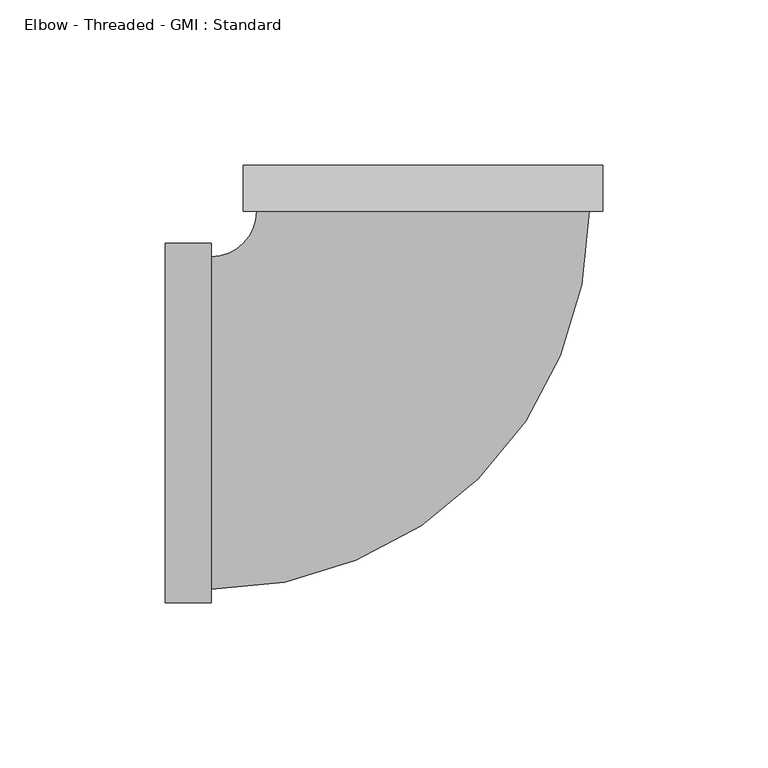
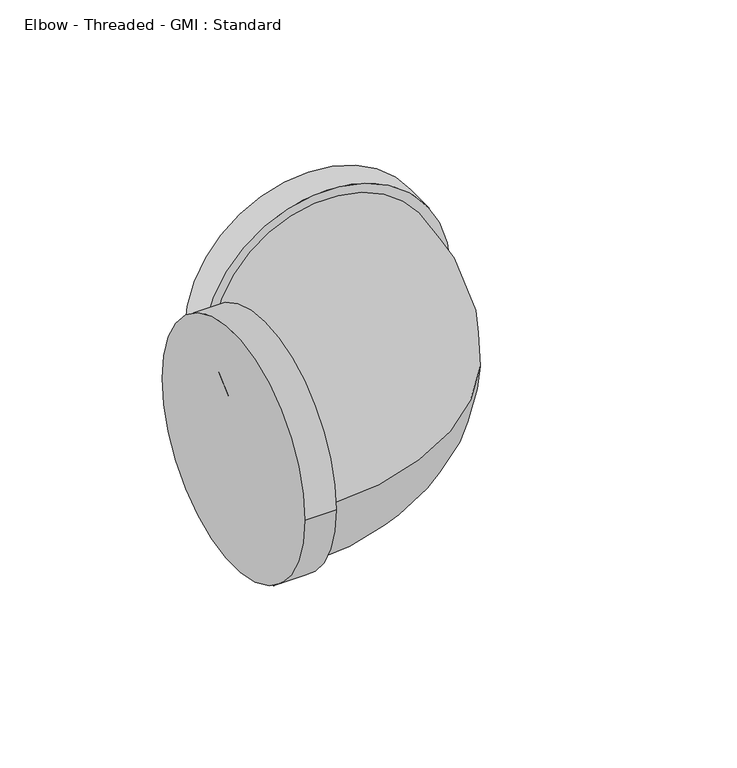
"""IFC4 building model written with IfcOpenShell, lengths in millimetres: pipe fitting geometry, Elbow - Threaded - GMI : Standard."""

import ifcopenshell
import ifcopenshell.guid

model = None  # the IFC model being written
_history = None  # IfcOwnerHistory: only IFC2X3 demands one
_inside = {}  # id of a spatial element -> (the spatial element, [elements in it])
_under = {}  # id of a project, library or spatial element -> (it, [spatial elements below it])
_declared = {}  # id of a project -> (the project, [libraries it declares])
_typed = {}  # id of a type object -> (the type object, [elements of that type])
_made_of = {}  # id of a material, layer set ... -> (it, [elements and type objects made of it])


def new_model(schema):
    """Start an empty IFC model of exactly this schema.

    Asked for "IFC4X3", IfcOpenShell would pick the latest addendum, in which some entities
    have other attributes; the version numbers below select the first issue.
    IFC2X3 requires an IfcOwnerHistory on every rooted entity: one is made here for all.
    """
    global model, _history
    if schema == "IFC4X3":
        model = ifcopenshell.file(schema_version=(4, 3, 0, 0))
    else:
        model = ifcopenshell.file(schema=schema)
    _inside.clear()
    _under.clear()
    _declared.clear()
    _typed.clear()
    _made_of.clear()
    _history = None
    if model.schema == "IFC2X3":
        org = make("IfcOrganization", Name="unknown")
        user = make(
            "IfcPersonAndOrganization",
            ThePerson=make("IfcPerson", FamilyName="unknown"),
            TheOrganization=org,
        )
        app = make(
            "IfcApplication",
            ApplicationDeveloper=org,
            Version="unknown",
            ApplicationFullName="unknown",
            ApplicationIdentifier="unknown",
        )
        _history = make(
            "IfcOwnerHistory",
            OwningUser=user,
            OwningApplication=app,
            ChangeAction="ADDED",
            CreationDate=0,
        )
    return model


def make(cls, **values):
    """One entity of the class cls with the attributes given. An attribute that is None is left unset."""
    return model.create_entity(
        cls, **{name: value for name, value in values.items() if value is not None}
    )


def rooted(cls, **values):
    """An entity with a GlobalId (a new one), such as an element, a storey or a relation."""
    return make(cls, GlobalId=ifcopenshell.guid.new(), OwnerHistory=_history, **values)


def si_unit(unit_type, name, prefix=None):
    """IfcSIUnit, for example si_unit("LENGTHUNIT", "METRE", prefix="MILLI")."""
    return make("IfcSIUnit", UnitType=unit_type, Prefix=prefix, Name=name)


def assignment(units):
    """IfcUnitAssignment: the units of a project."""
    return None if units is None else make("IfcUnitAssignment", Units=units)


def point(xyz):
    """IfcCartesianPoint."""
    return None if xyz is None else make("IfcCartesianPoint", Coordinates=xyz)


def direction(xyz):
    """IfcDirection."""
    return None if xyz is None else make("IfcDirection", DirectionRatios=xyz)


def frame(location, z_axis=None, x_axis=None):
    """IfcAxis2Placement3D, a coordinate frame: its origin and axes. An axis left out is left unset."""
    return make(
        "IfcAxis2Placement3D",
        Location=point(location),
        Axis=direction(z_axis),
        RefDirection=direction(x_axis),
    )


def origin():
    """The frame at (0, 0, 0) with its axes left unset."""
    return frame((0.0, 0.0, 0.0))


def place(relative_to, where):
    """IfcLocalPlacement: puts the frame where relative to a parent placement (None: the world)."""
    return make(
        "IfcLocalPlacement", PlacementRelTo=relative_to, RelativePlacement=where
    )


def context(
    kind, dimensions, precision=None, world=None, true_north=None, identifier=None
):
    """IfcGeometricRepresentationContext, for example the 3D "Model" context."""
    return make(
        "IfcGeometricRepresentationContext",
        ContextIdentifier=identifier,
        ContextType=kind,
        CoordinateSpaceDimension=dimensions,
        Precision=precision,
        WorldCoordinateSystem=world,
        TrueNorth=true_north,
    )


def project(units=None, contexts=None):
    """IfcProject with its units and contexts."""
    return rooted(
        "IfcProject",
        Name="project",
        RepresentationContexts=contexts,
        UnitsInContext=assignment(units),
    )


def spatial(cls, under=None, at=None, **own):
    """A site, building, storey or space (cls), placed at a placement, below another one or the project."""
    s = rooted(cls, ObjectPlacement=at, **own)
    if under is not None:
        _under.setdefault(under.id(), (under, []))[1].append(s)
    return s


def circle_curve(where, radius):
    """IfcCircle in the frame where."""
    return make("IfcCircle", Position=where, Radius=radius)


def ellipse_curve(where, semi_axis1, semi_axis2):
    """IfcEllipse in the frame where."""
    return make(
        "IfcEllipse", Position=where, SemiAxis1=semi_axis1, SemiAxis2=semi_axis2
    )


def trimmed(basis, trim1, trim2, sense, master):
    """IfcTrimmedCurve: the piece of a basis curve between two trims."""
    return make(
        "IfcTrimmedCurve",
        BasisCurve=basis,
        Trim1=trim1,
        Trim2=trim2,
        SenseAgreement=sense,
        MasterRepresentation=master,
    )


def shape(context_of_items, identifier, shape_type, items):
    """IfcShapeRepresentation: the items that make up one representation, for example the "Body"."""
    return make(
        "IfcShapeRepresentation",
        ContextOfItems=context_of_items,
        RepresentationIdentifier=identifier,
        RepresentationType=shape_type,
        Items=items,
    )


def source(mapping_origin, context_of_items, identifier, shape_type, items):
    """IfcRepresentationMap: a shape defined once, which mapped items show again and again."""
    return make(
        "IfcRepresentationMap",
        MappingOrigin=mapping_origin,
        MappedRepresentation=shape(context_of_items, identifier, shape_type, items),
    )


def transform(
    local_origin,
    x_axis=None,
    y_axis=None,
    z_axis=None,
    scale=None,
    scale2=None,
    scale3=None,
    uniform=True,
):
    """IfcCartesianTransformationOperator3D, or its non-uniform kind. x_axis, y_axis, z_axis: its Axis1, 2, 3."""
    if uniform:
        return make(
            "IfcCartesianTransformationOperator3D",
            Axis1=direction(x_axis),
            Axis2=direction(y_axis),
            LocalOrigin=point(local_origin),
            Scale=scale,
            Axis3=direction(z_axis),
        )
    return make(
        "IfcCartesianTransformationOperator3DnonUniform",
        Axis1=direction(x_axis),
        Axis2=direction(y_axis),
        LocalOrigin=point(local_origin),
        Scale=scale,
        Axis3=direction(z_axis),
        Scale2=scale2,
        Scale3=scale3,
    )


def mapped(mapping_source, mapping_target):
    """IfcMappedItem: shows the shape of a source again, moved by a transform."""
    return make(
        "IfcMappedItem", MappingSource=mapping_source, MappingTarget=mapping_target
    )


def made_of(thing, what):
    """Note that an element or type object is made of a material, layer set ...; save() writes the relation."""
    if what is not None:
        _made_of.setdefault(what.id(), (what, []))[1].append(thing)
    return thing


def element(
    cls,
    number,
    at=None,
    inside=None,
    cuts=None,
    type_object=None,
    material=None,
    context=None,
    identifier="Body",
    shape_type=None,
    held_by="IfcProductDefinitionShape",
    body=None,
    shapes=None,
    **own,
):
    """One element of the class cls, such as IfcWall. Its Tag is "e" and its number.

    at: its placement. inside: the storey or other place that contains it. cuts: it is an
    opening in that element (IfcRelVoidsElement). A single representation is given by context,
    identifier, shape_type and body (its items); several are given by shapes. held_by: the class
    of the entity that holds the representations. save() writes the other relations.
    """
    e = rooted(cls, Tag="e%d" % number, ObjectPlacement=at, **own)
    if body is not None:
        shapes = [shape(context, identifier, shape_type, body)]
    if shapes is not None:
        e.Representation = make(held_by, Representations=shapes)
    if inside is not None:
        _inside.setdefault(inside.id(), (inside, []))[1].append(e)
    if cuts is not None:
        rooted(
            "IfcRelVoidsElement", RelatingBuildingElement=cuts, RelatedOpeningElement=e
        )
    if type_object is not None:
        _typed.setdefault(type_object.id(), (type_object, []))[1].append(e)
    return made_of(e, material)


def aggregate(whole, parts):
    """IfcRelAggregates: a whole, such as a stair, and the parts it consists of."""
    return rooted("IfcRelAggregates", RelatingObject=whole, RelatedObjects=parts)


def save(model, path):
    """Write the relations noted so far, then the file.

    IfcRelAggregates (storeys below a building ...), IfcRelContainedInSpatialStructure (elements
    in a storey), IfcRelDefinesByType, IfcRelAssociatesMaterial and IfcRelDeclares: one each for
    every whole, place, type object, material and project.
    """
    for whole, parts in _under.values():
        aggregate(whole, parts)
    for where, things in _inside.values():
        rooted(
            "IfcRelContainedInSpatialStructure",
            RelatedElements=things,
            RelatingStructure=where,
        )
    for kind, things in _typed.values():
        rooted("IfcRelDefinesByType", RelatedObjects=things, RelatingType=kind)
    for what, things in _made_of.values():
        rooted("IfcRelAssociatesMaterial", RelatedObjects=things, RelatingMaterial=what)
    for by, libraries in _declared.values():
        rooted("IfcRelDeclares", RelatingContext=by, RelatedDefinitions=libraries)
    model.write(path)


def plane_surface(at):
    """IfcPlane: the flat surface through the origin of the frame at, square to its z axis."""
    return make("IfcPlane", Position=at)


def cylinder_surface(at, radius):
    """IfcCylindricalSurface: all points at the distance radius from the z axis of the frame at."""
    return make("IfcCylindricalSurface", Position=at, Radius=radius)


def revolved_surface(curve, axis_point, axis_direction):
    """IfcSurfaceOfRevolution: the curve turned about the line through axis_point along axis_direction."""
    return make(
        "IfcSurfaceOfRevolution",
        SweptCurve=make("IfcArbitraryOpenProfileDef", ProfileType="CURVE", Curve=curve),
        AxisPosition=make("IfcAxis1Placement", Location=point(axis_point), Axis=direction(axis_direction)),
    )


def advanced_brep(points, edges, surfaces, faces):
    """IfcAdvancedBrep: a solid bounded by faces that lie on surfaces and meet in shared edges.

    An edge is (start, end): straight between two places in points (the first is 0);
    or (start, end, curve); or (start, end, curve, False) where it runs against its curve.
    A face is (place in surfaces, loops), or (place, loops, False) where it looks against
    its surface's normal. A loop lists edges by number (the first is 1), with a minus sign
    where the edge is run from its end to its start. The first loop is the outer one.
    """
    corners = [point(p) for p in points]
    vertices = [make("IfcVertexPoint", VertexGeometry=c) for c in corners]
    made = []
    for start, end, *more in edges:
        made.append(
            make(
                "IfcEdgeCurve",
                EdgeStart=vertices[start],
                EdgeEnd=vertices[end],
                EdgeGeometry=more[0] if more else make("IfcPolyline", Points=[corners[start], corners[end]]),
                SameSense=more[1] if len(more) > 1 else True,
            )
        )
    hull = []
    for where, loops, *sense in faces:
        bounds = []
        for j, loop in enumerate(loops):
            ring = [make("IfcOrientedEdge", EdgeElement=made[abs(k) - 1], Orientation=k > 0) for k in loop]
            bounds.append(
                make(
                    "IfcFaceOuterBound" if j == 0 else "IfcFaceBound",
                    Bound=make("IfcEdgeLoop", EdgeList=ring),
                    Orientation=True,
                )
            )
        hull.append(make("IfcAdvancedFace", Bounds=bounds, FaceSurface=surfaces[where], SameSense=sense[0] if sense else True))
    return make("IfcAdvancedBrep", Outer=make("IfcClosedShell", CfsFaces=hull))


def elbow_threaded_gmi_standard_5eeaca30(model_context):
    return source(origin(), model_context, "Body", "AdvancedBrep", [
        advanced_brep(
        [(-78.0, -54.4, 0.0), (-78.0, 54.4, 0.0), (-64.1, -54.4, 0.0), (-64.1, 54.4, 0.0), (-64.1, -50.32, 0.0), (-64.1, 50.32, 0.0), (54.4, 64.1, 0.0), (-54.4, 64.1, 0.0), (-50.32, 64.1, 0.0), (50.32, 64.1, 0.0), (54.4, 78.0, 0.0), (-54.4, 78.0, 0.0)],
        [
            (0, 1, circle_curve(frame((-78.0, 0.0, 0.0), z_axis=(-1.0, 0.0, 0.0), x_axis=(0.0, 1.0, 0.0)), 54.4)),
            (1, 0, circle_curve(frame((-78.0, 0.0, 0.0), z_axis=(-1.0, 0.0, 0.0), x_axis=(0.0, 1.0, 0.0)), 54.4)),
            (2, 3, circle_curve(frame((-64.1, 0.0, 0.0), z_axis=(1.0, 0.0, 0.0), x_axis=(0.0, 1.0, 0.0)), 54.4)),
            (3, 2, circle_curve(frame((-64.1, 0.0, 0.0), z_axis=(1.0, 0.0, 0.0), x_axis=(0.0, 1.0, 0.0)), 54.4)),
            (4, 5, circle_curve(frame((-64.1, 0.0, 0.0), z_axis=(-1.0, 0.0, 0.0), x_axis=(0.0, 1.0, 0.0)), 50.32)),
            (5, 4, circle_curve(frame((-64.1, 0.0, 0.0), z_axis=(-1.0, 0.0, 0.0), x_axis=(0.0, 1.0, 0.0)), 50.32)),
            (0, 2),
            (3, 1),
            (6, 7, circle_curve(frame((0.0, 64.1, 0.0), z_axis=(0.0, -1.0, 0.0), x_axis=(-1.0, 0.0, 0.0)), 54.4)),
            (7, 6, circle_curve(frame((0.0, 64.1, 0.0), z_axis=(0.0, -1.0, 0.0), x_axis=(-1.0, 0.0, 0.0)), 54.4)),
            (8, 9, circle_curve(frame((0.0, 64.1, 0.0), z_axis=(0.0, 1.0, 0.0), x_axis=(-1.0, 0.0, 0.0)), 50.32)),
            (9, 8, circle_curve(frame((0.0, 64.1, 0.0), z_axis=(0.0, 1.0, 0.0), x_axis=(-1.0, 0.0, 0.0)), 50.32)),
            (10, 11, circle_curve(frame((0.0, 78.0, 0.0), z_axis=(0.0, 1.0, 0.0), x_axis=(-1.0, 0.0, 0.0)), 54.4)),
            (11, 10, circle_curve(frame((0.0, 78.0, 0.0), z_axis=(0.0, 1.0, 0.0), x_axis=(-1.0, 0.0, 0.0)), 54.4)),
            (6, 10),
            (11, 7),
            (8, 5, circle_curve(frame((-64.1, 64.1, 0.0), z_axis=(0.0, 0.0, -1.0), x_axis=(0.0, -1.0, 0.0)), 13.78)),
            (4, 9, circle_curve(frame((-64.1, 64.1, 0.0), z_axis=(0.0, 0.0, 1.0), x_axis=(0.0, -1.0, 0.0)), 114.42)),
        ],
        [
            plane_surface(frame((-78.0, 0.0, 0.0), z_axis=(-1.0, 0.0, 0.0), x_axis=(0.0, 0.0, 1.0))),
            plane_surface(frame((-64.1, 0.0, 0.0), z_axis=(1.0, 0.0, 0.0), x_axis=(0.0, 0.0, 1.0))),
            cylinder_surface(frame((-78.0, 0.0, 0.0), z_axis=(-1.0, 0.0, 0.0), x_axis=(0.0, 1.0, 0.0)), 54.4),
            plane_surface(frame((0.0, 64.1, 0.0), z_axis=(0.0, -1.0, 0.0), x_axis=(0.0, 0.0, 1.0))),
            plane_surface(frame((0.0, 78.0, 0.0), z_axis=(0.0, 1.0, 0.0), x_axis=(0.0, 0.0, 1.0))),
            cylinder_surface(frame((0.0, 64.1, 0.0), z_axis=(0.0, -1.0, 0.0), x_axis=(-1.0, 0.0, 0.0)), 54.4),
            revolved_surface(trimmed(ellipse_curve(frame((-64.1, 0.0, 0.0), z_axis=(-1.0, 0.0, 0.0), x_axis=(0.0, 1.0, 0.0)), 50.32, 50.32), [point((-64.1, -50.32, 0.0))], [point((-64.1, 50.32, 0.0))], True, "CARTESIAN"), (-64.1, 64.1, 0.0), (0.0, 0.0, 1.0)),
            revolved_surface(trimmed(ellipse_curve(frame((-64.1, 0.0, 0.0), z_axis=(-1.0, 0.0, 0.0), x_axis=(0.0, 1.0, 0.0)), 50.32, 50.32), [point((-64.1, 50.32, 0.0))], [point((-64.1, -50.32, 0.0))], True, "CARTESIAN"), (-64.1, 64.1, 0.0), (0.0, 0.0, 1.0)),
        ],
        [
            (0, [[1, 2]]),
            (1, [[3, 4], [5, 6]]),
            (2, [[-1, 7, -4, 8]]),
            (2, [[-2, -8, -3, -7]]),
            (3, [[9, 10], [11, 12]]),
            (4, [[13, 14]]),
            (5, [[-9, 15, -14, 16]]),
            (5, [[-10, -16, -13, -15]]),
            (6, [[17, -5, 18, -11]]),
            (7, [[-17, -12, -18, -6]]),
        ],
    ),
    ])


if __name__ == "__main__":
    model = new_model("IFC4")
    model_context = context("Model", 3, world=origin())
    ifc_project = project(units=[si_unit("LENGTHUNIT", "METRE", prefix="MILLI")], contexts=[model_context])
    site = spatial("IfcSite", under=ifc_project)
    building = spatial("IfcBuilding", under=site)
    placement = place(None, origin())
    elbow_threaded_gmi_standard_shape = elbow_threaded_gmi_standard_5eeaca30(model_context)
    element("IfcPipeFitting", 1, ObjectType="Elbow - Threaded - GMI : Standard", at=placement, inside=building, context=model_context, shape_type="MappedRepresentation", body=[
        mapped(elbow_threaded_gmi_standard_shape, transform((0.0, 0.0, 0.0), x_axis=(1.0, 0.0, 0.0), y_axis=(0.0, 1.0, 0.0), z_axis=(0.0, 0.0, 1.0))),
    ])
    save(model, "model.ifc")
